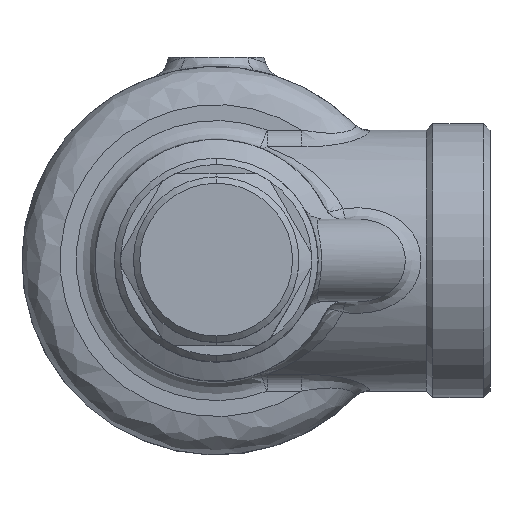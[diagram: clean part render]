
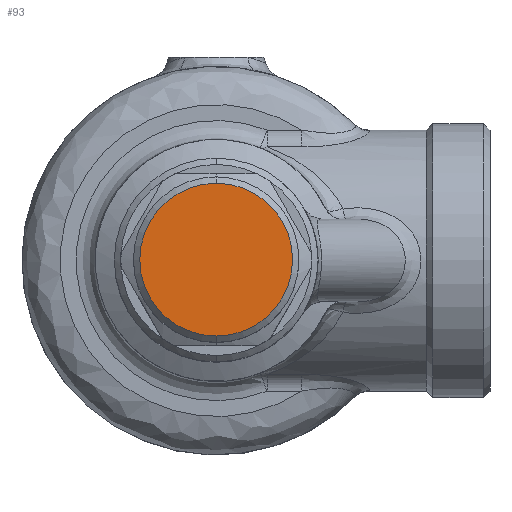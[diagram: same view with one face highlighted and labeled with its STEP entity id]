
A CAD part, top view. The second image highlights one B-rep face of the part: STEP entity #93.
In plain terms, the highlighted planar face has unit normal (0, 0, 1) as drawn and (0, 1, 0) by its records, which use the part's own axes.
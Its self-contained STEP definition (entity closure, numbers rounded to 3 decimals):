
#93=ADVANCED_FACE('',(#374),#373,.T.);
#373=PLANE('',#1798);
#374=FACE_OUTER_BOUND('',#1799,.T.);
#1795=CARTESIAN_POINT('',(-24.942,93.,-27.6));
#1796=DIRECTION('',(0.,1.,0.));
#1797=DIRECTION('',(0.,0.,1.));
#1798=AXIS2_PLACEMENT_3D('',#1795,#1796,#1797);
#1799=EDGE_LOOP('',(#3485,#3486));
#3485=ORIENTED_EDGE('',*,*,#4025,.T.);
#3486=ORIENTED_EDGE('',*,*,#4026,.T.);
#4025=EDGE_CURVE('',#4739,#4740,#4741,.T.);
#4026=EDGE_CURVE('',#4740,#4739,#4747,.T.);
#4739=VERTEX_POINT('',#6691);
#4740=VERTEX_POINT('',#6692);
#4741=CIRCLE('',#6696,12.);
#4747=CIRCLE('',#6700,12.);
#6691=CARTESIAN_POINT('',(0.,93.,12.));
#6692=CARTESIAN_POINT('',(0.,93.,-12.));
#6693=CARTESIAN_POINT('',(0.,93.,0.));
#6694=DIRECTION('',(0.,1.,0.));
#6695=DIRECTION('',(0.,0.,1.));
#6696=AXIS2_PLACEMENT_3D('',#6693,#6694,#6695);
#6697=CARTESIAN_POINT('',(0.,93.,0.));
#6698=DIRECTION('',(0.,1.,0.));
#6699=DIRECTION('',(0.,0.,1.));
#6700=AXIS2_PLACEMENT_3D('',#6697,#6698,#6699);
